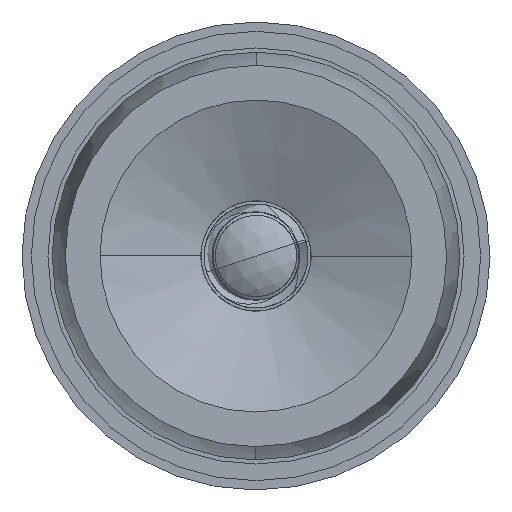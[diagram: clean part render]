
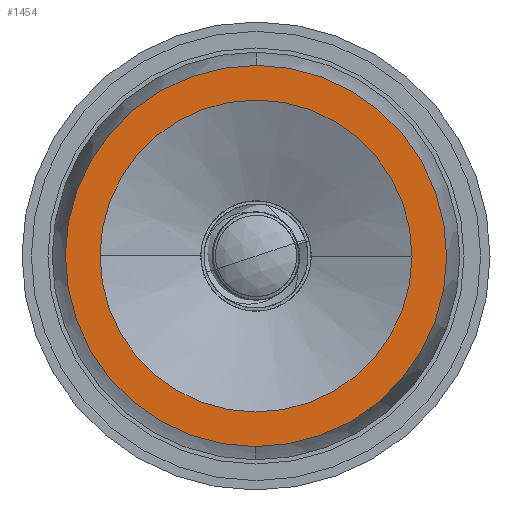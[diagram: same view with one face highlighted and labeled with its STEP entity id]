
A CAD part, left-side view. The second image highlights one B-rep face of the part: STEP entity #1454.
In plain terms, the highlighted planar face has unit normal (-1, 0, 0).
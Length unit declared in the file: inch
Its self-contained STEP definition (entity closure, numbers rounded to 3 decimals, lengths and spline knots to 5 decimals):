
#463 = DIRECTION ( 'NONE',  ( -1., 0., 0. ) ) ;
#703 = ORIENTED_EDGE ( 'NONE', *, *, #6982, .T. ) ;
#804 = FACE_OUTER_BOUND ( 'NONE', #11034, .T. ) ;
#1058 = CARTESIAN_POINT ( 'NONE',  ( -2.25, 0., 0. ) ) ;
#1119 = VERTEX_POINT ( 'NONE', #4292 ) ;
#1454 = ADVANCED_FACE ( 'NONE', ( #804, #10905 ), #3337, .F. ) ;
#2016 = AXIS2_PLACEMENT_3D ( 'NONE', #8352, #463, #9672 ) ;
#2369 = DIRECTION ( 'NONE',  ( 0., 1., 0. ) ) ;
#2531 = AXIS2_PLACEMENT_3D ( 'NONE', #1058, #10269, #2369 ) ;
#2602 = CIRCLE ( 'NONE', #15686, 0.45825 ) ;
#2717 = CIRCLE ( 'NONE', #7342, 0.375 ) ;
#2855 = EDGE_CURVE ( 'NONE', #14949, #1119, #11243, .T. ) ;
#2920 = ORIENTED_EDGE ( 'NONE', *, *, #12729, .T. ) ;
#3337 = PLANE ( 'NONE',  #15367 ) ;
#4292 = CARTESIAN_POINT ( 'NONE',  ( -2.25, -0.375, 0. ) ) ;
#4438 = CARTESIAN_POINT ( 'NONE',  ( -2.25, 0., 0. ) ) ;
#5291 = CARTESIAN_POINT ( 'NONE',  ( -2.25, 0., -0.45825 ) ) ;
#5764 = DIRECTION ( 'NONE',  ( 0., 0., 1. ) ) ;
#5805 = DIRECTION ( 'NONE',  ( 1., 0., 0. ) ) ;
#6907 = ORIENTED_EDGE ( 'NONE', *, *, #12785, .T. ) ;
#6982 = EDGE_CURVE ( 'NONE', #9494, #11044, #2602, .T. ) ;
#7342 = AXIS2_PLACEMENT_3D ( 'NONE', #13667, #5805, #14991 ) ;
#7453 = DIRECTION ( 'NONE',  ( 0., 0., -1. ) ) ;
#8095 = EDGE_LOOP ( 'NONE', ( #14320, #6907 ) ) ;
#8339 = CARTESIAN_POINT ( 'NONE',  ( -2.25, 0., 0.45825 ) ) ;
#8352 = CARTESIAN_POINT ( 'NONE',  ( -2.25, 0., 0. ) ) ;
#9494 = VERTEX_POINT ( 'NONE', #8339 ) ;
#9672 = DIRECTION ( 'NONE',  ( 0., 0., 1. ) ) ;
#10269 = DIRECTION ( 'NONE',  ( 1., 0., 0. ) ) ;
#10564 = CARTESIAN_POINT ( 'NONE',  ( -2.25, 0.375, 0. ) ) ;
#10905 = FACE_BOUND ( 'NONE', #8095, .T. ) ;
#11034 = EDGE_LOOP ( 'NONE', ( #703, #2920 ) ) ;
#11044 = VERTEX_POINT ( 'NONE', #5291 ) ;
#11243 = CIRCLE ( 'NONE', #2531, 0.375 ) ;
#11379 = CIRCLE ( 'NONE', #2016, 0.45825 ) ;
#12729 = EDGE_CURVE ( 'NONE', #11044, #9494, #11379, .T. ) ;
#12785 = EDGE_CURVE ( 'NONE', #1119, #14949, #2717, .T. ) ;
#13624 = DIRECTION ( 'NONE',  ( -1., 0., 0. ) ) ;
#13667 = CARTESIAN_POINT ( 'NONE',  ( -2.25, 0., 0. ) ) ;
#13977 = CARTESIAN_POINT ( 'NONE',  ( -2.25, 0.5625, 0. ) ) ;
#14320 = ORIENTED_EDGE ( 'NONE', *, *, #2855, .T. ) ;
#14949 = VERTEX_POINT ( 'NONE', #10564 ) ;
#14991 = DIRECTION ( 'NONE',  ( 0., 1., 0. ) ) ;
#15275 = DIRECTION ( 'NONE',  ( 1., 0., 0. ) ) ;
#15367 = AXIS2_PLACEMENT_3D ( 'NONE', #13977, #15275, #7453 ) ;
#15686 = AXIS2_PLACEMENT_3D ( 'NONE', #4438, #13624, #5764 ) ;
